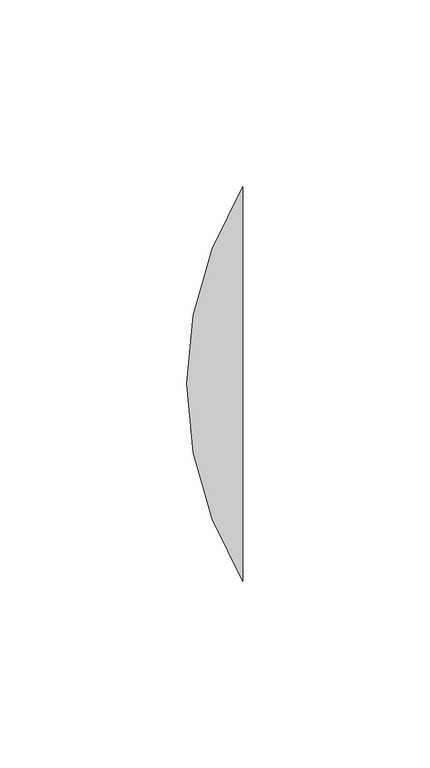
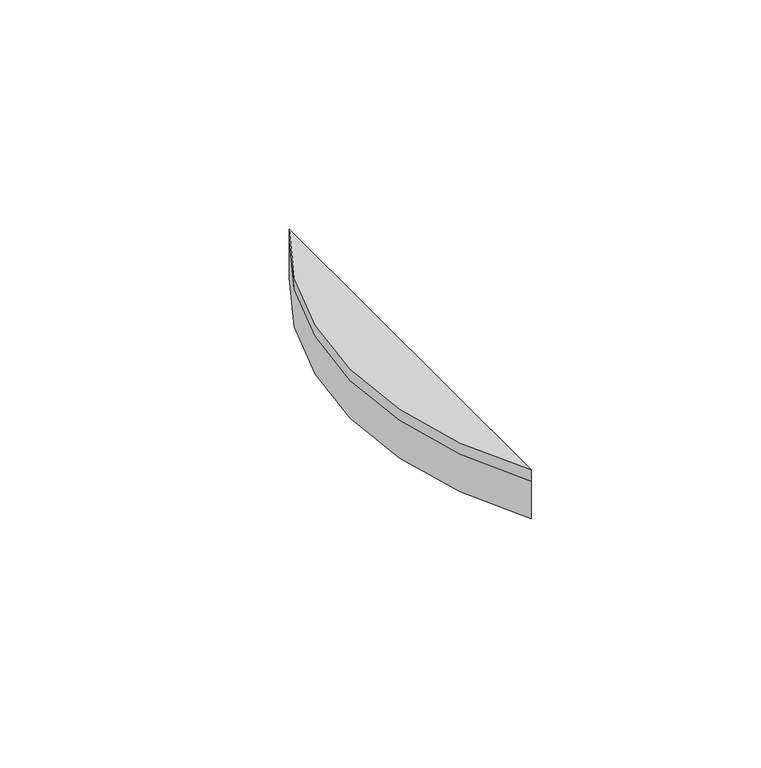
"""IFC4 building model written with IfcOpenShell, lengths in millimetres: proxy geometry, FilzFelt_Fish_Block : Fish Block."""

from ifc_helpers import new_model, si_unit, frame, origin, place, context, project, spatial, circle_curve, source, transform, mapped, element, save
from ifc_brep_helpers import plane_surface, cylinder_surface, advanced_brep


def specialty_equipment_11b84949(model_context):
    return source(origin(), model_context, "Body", "AdvancedBrep", [
        advanced_brep(
        [(-65.6962821, -52.7725183, 10.0210937), (-80.7142226, 0.0, 10.0210937), (-65.6962821, 52.7725183, 10.0210937), (-65.6962821, 52.7725183, 12.9976563), (-80.7142226, 0.0, 12.9976563), (-65.6962821, -52.7725183, 12.9976563)],
        [
            (0, 1, circle_curve(frame((19.5151403, 0.0, 10.0210937), z_axis=(0.0, 0.0, -1.0), x_axis=(-1.0, 0.0, 0.0)), 100.2293629)),
            (1, 2, circle_curve(frame((19.5151403, 0.0, 10.0210937), z_axis=(0.0, 0.0, -1.0), x_axis=(-1.0, 0.0, 0.0)), 100.2293629)),
            (2, 0),
            (3, 4, circle_curve(frame((19.5151403, 0.0, 12.9976563), z_axis=(0.0, 0.0, 1.0), x_axis=(-1.0, 0.0, 0.0)), 100.2293629)),
            (4, 5, circle_curve(frame((19.5151403, 0.0, 12.9976563), z_axis=(0.0, 0.0, 1.0), x_axis=(-1.0, 0.0, 0.0)), 100.2293629)),
            (5, 3),
            (0, 5),
            (3, 2),
        ],
        [
            plane_surface(frame((0.0, 0.0, 10.0210937), z_axis=(0.0, 0.0, -1.0), x_axis=(0.0, -1.0, 0.0))),
            plane_surface(frame((0.0, 0.0, 12.9976563), z_axis=(0.0, 0.0, 1.0), x_axis=(0.0, -1.0, 0.0))),
            cylinder_surface(frame((19.5151403, 0.0, 10.0210937), z_axis=(0.0, 0.0, -1.0), x_axis=(-1.0, 0.0, 0.0)), 100.2293629),
            plane_surface(frame((-65.6962821, -199.8641956, 12.9976562), z_axis=(1.0, 0.0, 0.0), x_axis=(0.0, 0.0, 1.0))),
        ],
        [
            (0, [[1, 2, 3]]),
            (1, [[4, 5, 6]]),
            (2, [[-1, 7, -5, -4, 8, -2]]),
            (3, [[-3, -8, -6, -7]]),
        ],
    ),
        advanced_brep(
        [(-65.6962821, -52.7725183, 0.0), (-80.7142226, 0.0, 0.0), (-65.6962821, 52.7725183, 0.0), (-65.6962821, 52.7725183, 10.0210937), (-80.7142226, 0.0, 10.0210937), (-65.6962821, -52.7725183, 10.0210937)],
        [
            (0, 1, circle_curve(frame((19.5151403, 0.0, 0.0), z_axis=(0.0, 0.0, -1.0), x_axis=(-1.0, 0.0, 0.0)), 100.2293629)),
            (1, 2, circle_curve(frame((19.5151403, 0.0, 0.0), z_axis=(0.0, 0.0, -1.0), x_axis=(-1.0, 0.0, 0.0)), 100.2293629)),
            (2, 0),
            (3, 4, circle_curve(frame((19.5151403, 0.0, 10.0210937), z_axis=(0.0, 0.0, 1.0), x_axis=(-1.0, 0.0, 0.0)), 100.2293629)),
            (4, 5, circle_curve(frame((19.5151403, 0.0, 10.0210937), z_axis=(0.0, 0.0, 1.0), x_axis=(-1.0, 0.0, 0.0)), 100.2293629)),
            (5, 3),
            (0, 5),
            (3, 2),
        ],
        [
            plane_surface(frame((0.0, 0.0, 0.0), z_axis=(0.0, 0.0, -1.0), x_axis=(0.0, -1.0, 0.0))),
            plane_surface(frame((0.0, 0.0, 10.0210937), z_axis=(0.0, 0.0, 1.0), x_axis=(0.0, -1.0, 0.0))),
            cylinder_surface(frame((19.5151403, 0.0, 0.0), z_axis=(0.0, 0.0, -1.0), x_axis=(-1.0, 0.0, 0.0)), 100.2293629),
            plane_surface(frame((-65.6962821, -199.8641956, 12.9976562), z_axis=(1.0, 0.0, 0.0), x_axis=(0.0, 0.0, 1.0))),
        ],
        [
            (0, [[1, 2, 3]]),
            (1, [[4, 5, 6]]),
            (2, [[-1, 7, -5, -4, 8, -2]]),
            (3, [[-3, -8, -6, -7]]),
        ],
    ),
    ])


if __name__ == "__main__":
    model = new_model("IFC4")
    model_context = context("Model", 3, world=origin())
    ifc_project = project(units=[si_unit("LENGTHUNIT", "METRE", prefix="MILLI")], contexts=[model_context])
    site = spatial("IfcSite", under=ifc_project)
    building = spatial("IfcBuilding", under=site)
    placement = place(None, origin())
    specialty_equipment_shape = specialty_equipment_11b84949(model_context)
    element("IfcBuildingElementProxy", 1, Name="FilzFelt_Fish_Block : Fish Block", ObjectType="FilzFelt_Fish_Block : Fish Block", at=placement, inside=building, context=model_context, shape_type="MappedRepresentation", body=[
        mapped(specialty_equipment_shape, transform((0.0, 0.0, 0.0), x_axis=(1.0, 0.0, 0.0), y_axis=(0.0, 1.0, 0.0), z_axis=(0.0, 0.0, 1.0))),
    ])
    save(model, "model.ifc")
